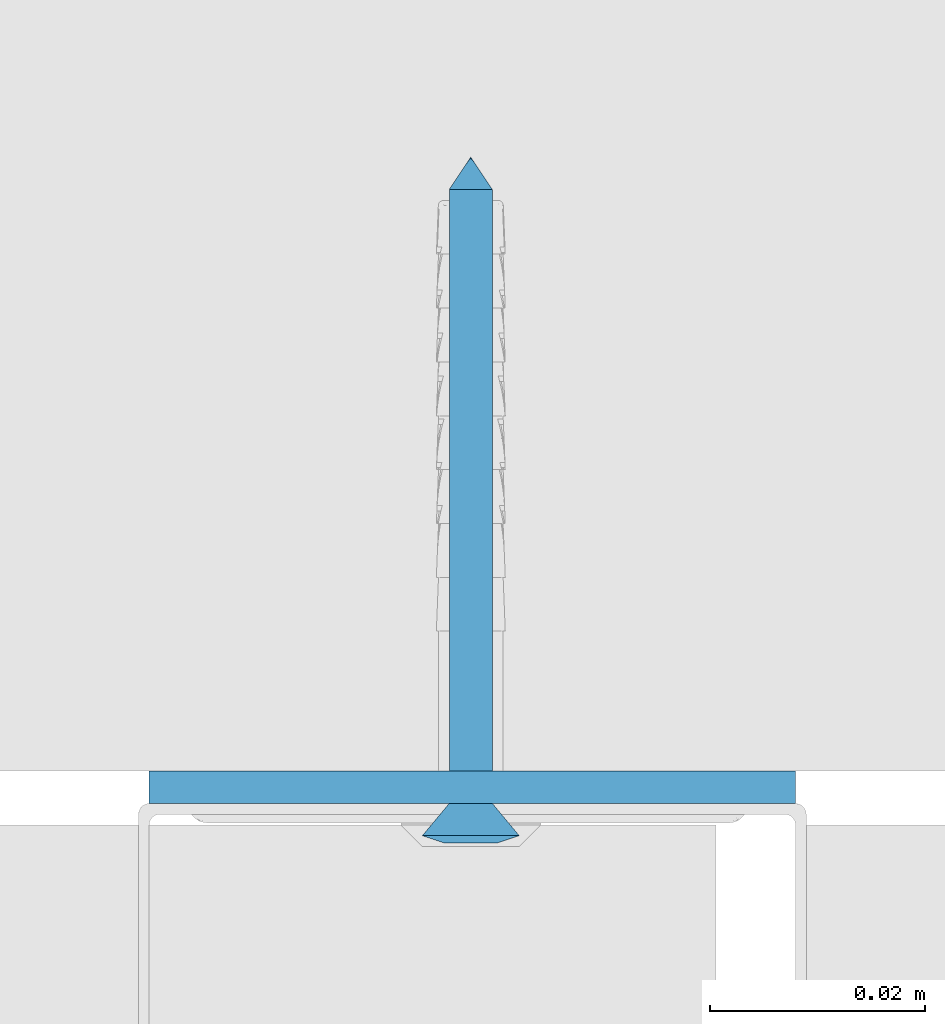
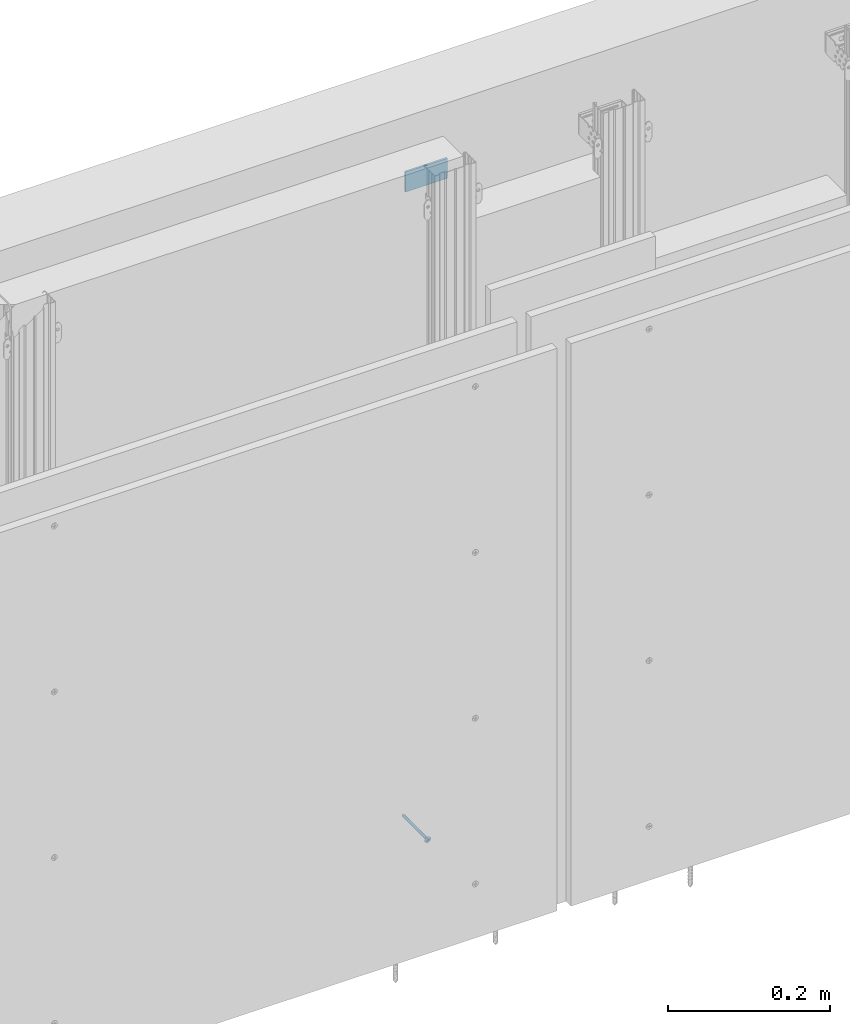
# One storey, part 16 of 48: 2 walls.
"""IFC2X3 building model written with IfcOpenShell, lengths in millimetres."""

import ifcopenshell
import ifcopenshell.guid

model = None  # the IFC model being written
_history = None  # IfcOwnerHistory: only IFC2X3 demands one
_inside = {}  # id of a spatial element -> (the spatial element, [elements in it])
_under = {}  # id of a project, library or spatial element -> (it, [spatial elements below it])
_declared = {}  # id of a project -> (the project, [libraries it declares])
_typed = {}  # id of a type object -> (the type object, [elements of that type])
_made_of = {}  # id of a material, layer set ... -> (it, [elements and type objects made of it])


def new_model(schema):
    """Start an empty IFC model of exactly this schema.

    Asked for "IFC4X3", IfcOpenShell would pick the latest addendum, in which some entities
    have other attributes; the version numbers below select the first issue.
    IFC2X3 requires an IfcOwnerHistory on every rooted entity: one is made here for all.
    """
    global model, _history
    if schema == "IFC4X3":
        model = ifcopenshell.file(schema_version=(4, 3, 0, 0))
    else:
        model = ifcopenshell.file(schema=schema)
    _inside.clear()
    _under.clear()
    _declared.clear()
    _typed.clear()
    _made_of.clear()
    _history = None
    if model.schema == "IFC2X3":
        org = make("IfcOrganization", Name="unknown")
        user = make(
            "IfcPersonAndOrganization",
            ThePerson=make("IfcPerson", FamilyName="unknown"),
            TheOrganization=org,
        )
        app = make(
            "IfcApplication",
            ApplicationDeveloper=org,
            Version="unknown",
            ApplicationFullName="unknown",
            ApplicationIdentifier="unknown",
        )
        _history = make(
            "IfcOwnerHistory",
            OwningUser=user,
            OwningApplication=app,
            ChangeAction="ADDED",
            CreationDate=0,
        )
    return model


def make(cls, **values):
    """One entity of the class cls with the attributes given. An attribute that is None is left unset."""
    return model.create_entity(
        cls, **{name: value for name, value in values.items() if value is not None}
    )


def entity(cls, *values):
    """Any entity or typed value of the class cls, its attributes in the order of the schema. None: left unset."""
    e = model.create_entity(cls)
    for i, value in enumerate(values):
        if value is not None:
            e[i] = value
    return e


def rooted(cls, **values):
    """An entity with a GlobalId (a new one), such as an element, a storey or a relation."""
    return make(cls, GlobalId=ifcopenshell.guid.new(), OwnerHistory=_history, **values)


def si_unit(unit_type, name, prefix=None):
    """IfcSIUnit, for example si_unit("LENGTHUNIT", "METRE", prefix="MILLI")."""
    return make("IfcSIUnit", UnitType=unit_type, Prefix=prefix, Name=name)


def converted_unit(unit_type, name, factor, base, dimensions=None, offset=None):
    """IfcConversionBasedUnit, such as the inch: factor (a typed value) times the base unit."""
    return make(
        "IfcConversionBasedUnit"
        if offset is None
        else "IfcConversionBasedUnitWithOffset",
        ConversionOffset=offset,
        Dimensions=None
        if dimensions is None
        else entity("IfcDimensionalExponents", *dimensions),
        UnitType=unit_type,
        Name=name,
        ConversionFactor=make(
            "IfcMeasureWithUnit", ValueComponent=factor, UnitComponent=base
        ),
    )


def assignment(units):
    """IfcUnitAssignment: the units of a project."""
    return None if units is None else make("IfcUnitAssignment", Units=units)


def point(xyz):
    """IfcCartesianPoint."""
    return None if xyz is None else make("IfcCartesianPoint", Coordinates=xyz)


def direction(xyz):
    """IfcDirection."""
    return None if xyz is None else make("IfcDirection", DirectionRatios=xyz)


def frame(location, z_axis=None, x_axis=None):
    """IfcAxis2Placement3D, a coordinate frame: its origin and axes. An axis left out is left unset."""
    return make(
        "IfcAxis2Placement3D",
        Location=point(location),
        Axis=direction(z_axis),
        RefDirection=direction(x_axis),
    )


def origin():
    """The frame at (0, 0, 0) with its axes left unset."""
    return frame((0.0, 0.0, 0.0))


def origin_with_axes():
    """The frame at (0, 0, 0) with the z axis (0, 0, 1) and the x axis (1, 0, 0) written out."""
    return frame((0.0, 0.0, 0.0), z_axis=(0.0, 0.0, 1.0), x_axis=(1.0, 0.0, 0.0))


def place(relative_to, where):
    """IfcLocalPlacement: puts the frame where relative to a parent placement (None: the world)."""
    return make(
        "IfcLocalPlacement", PlacementRelTo=relative_to, RelativePlacement=where
    )


def context(
    kind, dimensions, precision=None, world=None, true_north=None, identifier=None
):
    """IfcGeometricRepresentationContext, for example the 3D "Model" context."""
    return make(
        "IfcGeometricRepresentationContext",
        ContextIdentifier=identifier,
        ContextType=kind,
        CoordinateSpaceDimension=dimensions,
        Precision=precision,
        WorldCoordinateSystem=world,
        TrueNorth=true_north,
    )


def project(units=None, contexts=None):
    """IfcProject with its units and contexts."""
    return rooted(
        "IfcProject",
        Name="project",
        RepresentationContexts=contexts,
        UnitsInContext=assignment(units),
    )


def spatial(cls, under=None, at=None, **own):
    """A site, building, storey or space (cls), placed at a placement, below another one or the project."""
    s = rooted(cls, ObjectPlacement=at, **own)
    if under is not None:
        _under.setdefault(under.id(), (under, []))[1].append(s)
    return s


def faces_of(points, faces, orient=None, outer=None):
    """IfcFace entities. A face is a list of loops; a loop is a list of indices into points, from 0.

    orient and outer hold one flag for each loop. By default every Orientation is true, the
    first loop of a face is its IfcFaceOuterBound and the others are IfcFaceBound.
    """
    made = []
    for i, loops in enumerate(faces):
        bounds = []
        for j, loop in enumerate(loops):
            is_outer = j == 0 if outer is None else outer[i][j]
            bounds.append(
                make(
                    "IfcFaceOuterBound" if is_outer else "IfcFaceBound",
                    Bound=make("IfcPolyLoop", Polygon=[points[k] for k in loop]),
                    Orientation=True if orient is None else orient[i][j],
                )
            )
        made.append(make("IfcFace", Bounds=bounds))
    return made


def faceted_brep(points, faces, orient=None, outer=None, voids=None):
    """IfcFacetedBrep: a solid bounded by flat faces; with voids (closed shells), ...WithVoids."""
    shared = [point(p) for p in points]
    hull = make("IfcClosedShell", CfsFaces=faces_of(shared, faces, orient, outer))
    if voids is None:
        return make("IfcFacetedBrep", Outer=hull)
    return make(
        "IfcFacetedBrepWithVoids",
        Outer=hull,
        Voids=[
            make(cls, CfsFaces=faces_of(shared, fs, o, b)) for cls, fs, o, b in voids
        ],
    )


def shape(context_of_items, identifier, shape_type, items):
    """IfcShapeRepresentation: the items that make up one representation, for example the "Body"."""
    return make(
        "IfcShapeRepresentation",
        ContextOfItems=context_of_items,
        RepresentationIdentifier=identifier,
        RepresentationType=shape_type,
        Items=items,
    )


def made_of(thing, what):
    """Note that an element or type object is made of a material, layer set ...; save() writes the relation."""
    if what is not None:
        _made_of.setdefault(what.id(), (what, []))[1].append(thing)
    return thing


def element(
    cls,
    number,
    at=None,
    inside=None,
    cuts=None,
    type_object=None,
    material=None,
    context=None,
    identifier="Body",
    shape_type=None,
    held_by="IfcProductDefinitionShape",
    body=None,
    shapes=None,
    **own,
):
    """One element of the class cls, such as IfcWall. Its Tag is "e" and its number.

    at: its placement. inside: the storey or other place that contains it. cuts: it is an
    opening in that element (IfcRelVoidsElement). A single representation is given by context,
    identifier, shape_type and body (its items); several are given by shapes. held_by: the class
    of the entity that holds the representations. save() writes the other relations.
    """
    e = rooted(cls, Tag="e%d" % number, ObjectPlacement=at, **own)
    if body is not None:
        shapes = [shape(context, identifier, shape_type, body)]
    if shapes is not None:
        e.Representation = make(held_by, Representations=shapes)
    if inside is not None:
        _inside.setdefault(inside.id(), (inside, []))[1].append(e)
    if cuts is not None:
        rooted(
            "IfcRelVoidsElement", RelatingBuildingElement=cuts, RelatedOpeningElement=e
        )
    if type_object is not None:
        _typed.setdefault(type_object.id(), (type_object, []))[1].append(e)
    return made_of(e, material)


def aggregate(whole, parts):
    """IfcRelAggregates: a whole, such as a stair, and the parts it consists of."""
    return rooted("IfcRelAggregates", RelatingObject=whole, RelatedObjects=parts)


def save(model, path):
    """Write the relations noted so far, then the file.

    IfcRelAggregates (storeys below a building ...), IfcRelContainedInSpatialStructure (elements
    in a storey), IfcRelDefinesByType, IfcRelAssociatesMaterial and IfcRelDeclares: one each for
    every whole, place, type object, material and project.
    """
    for whole, parts in _under.values():
        aggregate(whole, parts)
    for where, things in _inside.values():
        rooted(
            "IfcRelContainedInSpatialStructure",
            RelatedElements=things,
            RelatingStructure=where,
        )
    for kind, things in _typed.values():
        rooted("IfcRelDefinesByType", RelatedObjects=things, RelatingType=kind)
    for what, things in _made_of.values():
        rooted("IfcRelAssociatesMaterial", RelatedObjects=things, RelatingMaterial=what)
    for by, libraries in _declared.values():
        rooted("IfcRelDeclares", RelatingContext=by, RelatedDefinitions=libraries)
    model.write(path)


model = new_model("IFC2X3")

# Units and contexts
model_context = context("Model", 3, precision=1e-05, world=origin(), true_north=direction((0.0, 1.0, 0.0)))
ifc_project = project(units=[si_unit("LENGTHUNIT", "METRE", prefix="MILLI"), si_unit("AREAUNIT", "SQUARE_METRE"), si_unit("VOLUMEUNIT", "CUBIC_METRE"), converted_unit("PLANEANGLEUNIT", "DEGREE", entity("IfcPlaneAngleMeasure", 0.01745), si_unit("PLANEANGLEUNIT", "RADIAN"), dimensions=[0, 0, 0, 0, 0, 0, 0]), si_unit("SOLIDANGLEUNIT", "STERADIAN"), si_unit("MASSUNIT", "GRAM"), si_unit("TIMEUNIT", "SECOND"), si_unit("THERMODYNAMICTEMPERATUREUNIT", "DEGREE_CELSIUS"), si_unit("LUMINOUSINTENSITYUNIT", "LUMEN")], contexts=[model_context])

# Site, building, storey
site_placement = place(None, origin_with_axes())
site = spatial("IfcSite", under=ifc_project, at=site_placement, Name="Default Site", CompositionType="ELEMENT")
building_placement = place(site_placement, origin_with_axes())
building = spatial("IfcBuilding", under=site, at=building_placement, Name="Default Building", CompositionType="ELEMENT")
storey_placement = place(building_placement, origin_with_axes())
storey = spatial("IfcBuildingStorey", under=building, at=storey_placement, Name="Default Building Storey", CompositionType="ELEMENT", Elevation=0.0)

# Walls
wall_1_placement = place(storey_placement, frame((2855.939502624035, 2019.140922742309, 1121.101645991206), z_axis=(0.0, 0.0, 1.0), x_axis=(1.0, 0.0, 0.0)))
element("IfcWall", 1, at=wall_1_placement, inside=storey, Name="Taśma uszczelniająca piankowa RIGIPS szer.30mm", context=model_context, shape_type="Brep", body=[
    faceted_brep([(59.99999999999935, 0.0, 4.511946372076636e-12), (0.0, 0.0, 0.0), (1.082867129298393e-12, -2.237925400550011e-11, -30.00000000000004), (60.00000000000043, -2.237925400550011e-11, -29.99999999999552), (0.0, 3.00000000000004, 0.0), (1.082867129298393e-12, 2.999999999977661, -30.00000000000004), (60.00000000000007, 3.00000000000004, 0.0), (60.00000000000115, 2.999999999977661, -30.00000000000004)], [[[0, 1, 2, 3]], [[1, 4, 5, 2]], [[4, 6, 7, 5]], [[6, 0, 3, 7]], [[7, 3, 2, 5]], [[0, 6, 4, 1]]]),
])
wall_2_placement = place(storey_placement, frame((6339.07869923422, 2015.690922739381, 1539.813288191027), z_axis=(-6.858158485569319e-13, -1.0, 7.642380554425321e-14), x_axis=(-1.647602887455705e-11, 7.642380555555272e-14, 1.0)))
element("IfcWall", 2, at=wall_2_placement, inside=storey, Name="Kołek rozporowy min. fi 6", context=model_context, shape_type="Brep", body=[
    faceted_brep([(-1438.31414949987, 3453.283223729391, -0.4642567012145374), (-1435.814149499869, 3453.283223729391, -3.464256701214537), (-1435.78952618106, 3452.97035479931, -3.464256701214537), (-1438.258747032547, 3452.57926863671, -0.4642567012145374), (-1435.71626253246, 3452.665189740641, -3.464256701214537), (-1438.093903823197, 3451.892647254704, -0.4642567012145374), (-1435.596162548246, 3452.375242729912, -3.464256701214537), (-1437.823678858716, 3451.240266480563, -0.4642567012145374), (-1435.432183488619, 3452.107653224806, -3.464256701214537), (-1437.454725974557, 3450.638190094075, -0.4642567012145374), (-1435.228363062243, 3451.869010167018, -3.464256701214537), (-1436.996130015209, 3450.101243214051, -0.4642567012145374), (-1434.989720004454, 3451.665189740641, -3.464256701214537), (-1436.459183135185, 3449.642647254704, -0.4642567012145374), (-1434.722130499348, 3451.501210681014, -3.464256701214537), (-1435.857106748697, 3449.273694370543, -0.4642567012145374), (-1434.432183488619, 3451.381110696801, -3.464256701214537), (-1435.204725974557, 3449.003469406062, -0.4642567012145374), (-1434.12701842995, 3451.307847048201, -3.464256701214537), (-1434.51810459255, 3448.838626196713, -0.4642567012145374), (-1433.814149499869, 3451.283223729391, -3.464256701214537), (-1433.814149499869, 3448.783223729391, -0.4642567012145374), (-1433.501280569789, 3451.307847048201, -3.464256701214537), (-1433.110194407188, 3448.838626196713, -0.4642567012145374), (-1433.19611551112, 3451.381110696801, -3.464256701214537), (-1432.423573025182, 3449.003469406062, -0.4642567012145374), (-1432.906168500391, 3451.501210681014, -3.464256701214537), (-1431.771192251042, 3449.273694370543, -0.4642567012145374), (-1432.638578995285, 3451.665189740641, -3.464256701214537), (-1431.169115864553, 3449.642647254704, -0.4642567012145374), (-1432.399935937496, 3451.869010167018, -3.464256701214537), (-1430.63216898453, 3450.101243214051, -0.4642567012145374), (-1432.196115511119, 3452.107653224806, -3.464256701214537), (-1430.173573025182, 3450.638190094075, -0.4642567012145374), (-1432.032136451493, 3452.375242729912, -3.464256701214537), (-1429.804620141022, 3451.240266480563, -0.4642567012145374), (-1431.912036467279, 3452.665189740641, -3.464256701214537), (-1429.534395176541, 3451.892647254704, -0.4642567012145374), (-1431.838772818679, 3453.596092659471, -3.464256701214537), (-1429.369551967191, 3453.987178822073, -0.4642567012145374), (-1429.314149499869, 3453.283223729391, -0.4642567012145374), (-1431.81414949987, 3453.283223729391, -3.464256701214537), (-1429.369551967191, 3452.57926863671, -0.4642567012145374), (-1431.838772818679, 3452.97035479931, -3.464256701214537), (-1431.912036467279, 3453.901257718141, -3.464256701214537), (-1429.534395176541, 3454.673800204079, -0.4642567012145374), (-1432.032136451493, 3454.19120472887, -3.464256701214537), (-1429.804620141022, 3455.326180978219, -0.4642567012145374), (-1432.196115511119, 3454.458794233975, -3.464256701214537), (-1430.173573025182, 3455.928257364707, -0.4642567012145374), (-1432.399935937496, 3454.697437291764, -3.464256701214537), (-1430.63216898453, 3456.465204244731, -0.4642567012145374), (-1432.638578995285, 3454.901257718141, -3.464256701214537), (-1431.169115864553, 3456.923800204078, -0.4642567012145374), (-1432.906168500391, 3455.065236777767, -3.464256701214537), (-1431.771192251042, 3457.292753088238, -0.4642567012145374), (-1433.19611551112, 3455.185336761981, -3.464256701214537), (-1432.423573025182, 3457.562978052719, -0.4642567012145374), (-1433.501280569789, 3455.258600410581, -3.464256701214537), (-1433.110194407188, 3457.727821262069, -0.4642567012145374), (-1433.814149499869, 3455.283223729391, -3.464256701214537), (-1433.814149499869, 3457.783223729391, -0.4642567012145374), (-1434.34306778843, 3457.752031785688, -0.4642567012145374), (-1434.12701842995, 3455.258600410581, -3.464256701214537), (-1434.432183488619, 3455.185336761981, -3.464256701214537), (-1434.864653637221, 3457.658888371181, -0.4642567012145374), (-1435.371676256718, 3457.505084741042, -0.4642567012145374), (-1434.722130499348, 3455.065236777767, -3.464256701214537), (-1435.857106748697, 3457.292753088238, -0.4642567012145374), (-1434.989720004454, 3454.901257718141, -3.464256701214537), (-1435.228363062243, 3454.697437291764, -3.464256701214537), (-1436.314215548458, 3457.024836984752, -0.4642567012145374), (-1436.736665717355, 3456.705050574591, -0.4642567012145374), (-1437.11860079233, 3456.337827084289, -0.4642567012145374), (-1437.454725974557, 3455.928257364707, -0.4642567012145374), (-1435.432183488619, 3454.458794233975, -3.464256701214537), (-1435.596162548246, 3454.19120472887, -3.464256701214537), (-1437.823678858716, 3455.326180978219, -0.4642567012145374), (-1435.71626253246, 3453.901257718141, -3.464256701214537), (-1438.093903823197, 3454.673800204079, -0.4642567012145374), (-1435.78952618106, 3453.596092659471, -3.464256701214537), (-1438.258747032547, 3453.987178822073, -0.4642567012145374), (-1434.205235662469, 3455.752444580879, 0.2007375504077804), (-1433.814149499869, 3455.78322372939, 0.2007375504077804), (-1434.586691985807, 3455.660865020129, 0.2007375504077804), (-1434.949125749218, 3455.510740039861, 0.2007375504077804), (-1435.283612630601, 3455.305766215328, 0.2007375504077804), (-1435.581916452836, 3455.050990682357, 0.2007375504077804), (-1435.836691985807, 3454.752686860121, 0.2007375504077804), (-1436.04166581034, 3454.41819997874, 0.2007375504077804), (-1436.191790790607, 3454.055766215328, 0.2007375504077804), (-1436.283370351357, 3453.674309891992, 0.2007375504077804), (-1436.314149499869, 3453.283223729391, 0.2007375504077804), (-1436.283370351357, 3452.892137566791, 0.2007375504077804), (-1436.191790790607, 3452.510681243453, 0.2007375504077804), (-1436.04166581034, 3452.148247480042, 0.2007375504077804), (-1435.836691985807, 3451.81376059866, 0.200737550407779), (-1435.581916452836, 3451.515456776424, 0.2007375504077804), (-1435.283612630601, 3451.260681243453, 0.2007375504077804), (-1434.949125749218, 3451.05570741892, 0.2007375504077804), (-1434.586691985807, 3450.905582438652, 0.2007375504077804), (-1433.423063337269, 3450.814002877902, 0.2007375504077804), (-1433.814149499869, 3450.783223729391, 0.2007375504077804), (-1434.205235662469, 3450.814002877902, 0.2007375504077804), (-1433.041607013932, 3450.905582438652, 0.2007375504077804), (-1432.67917325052, 3451.05570741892, 0.2007375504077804), (-1432.344686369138, 3451.260681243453, 0.2007375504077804), (-1432.046382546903, 3451.515456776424, 0.2007375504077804), (-1431.791607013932, 3451.81376059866, 0.2007375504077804), (-1431.586633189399, 3452.148247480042, 0.2007375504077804), (-1431.436508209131, 3452.510681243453, 0.2007375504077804), (-1431.344928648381, 3452.892137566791, 0.2007375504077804), (-1431.314149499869, 3453.283223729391, 0.2007375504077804), (-1431.344928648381, 3453.674309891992, 0.2007375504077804), (-1431.436508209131, 3454.055766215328, 0.2007375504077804), (-1431.586633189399, 3454.41819997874, 0.2007375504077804), (-1431.791607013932, 3454.752686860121, 0.2007375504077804), (-1432.046382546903, 3455.050990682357, 0.2007375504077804), (-1432.344686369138, 3455.305766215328, 0.2007375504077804), (-1432.67917325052, 3455.510740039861, 0.2007375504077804), (-1433.041607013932, 3455.660865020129, 0.2007375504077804), (-1433.423063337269, 3455.752444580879, 0.2007375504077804), (-1433.814149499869, 3453.283223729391, -63.46425670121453), (-1435.789526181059, 3452.97035479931, -60.46425670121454), (-1435.814149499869, 3453.283223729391, -60.46425670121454), (-1435.716262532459, 3452.665189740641, -60.46425670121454), (-1435.596162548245, 3452.375242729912, -60.46425670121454), (-1435.432183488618, 3452.107653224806, -60.46425670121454), (-1435.228363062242, 3451.869010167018, -60.46425670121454), (-1434.989720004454, 3451.665189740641, -60.46425670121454), (-1434.722130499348, 3451.501210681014, -60.46425670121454), (-1434.432183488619, 3451.381110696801, -60.46425670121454), (-1434.127018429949, 3451.307847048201, -60.46425670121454), (-1433.814149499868, 3451.283223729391, -60.46425670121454), (-1433.501280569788, 3451.307847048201, -60.46425670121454), (-1433.196115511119, 3451.381110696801, -60.46425670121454), (-1432.90616850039, 3451.501210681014, -60.46425670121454), (-1432.638578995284, 3451.665189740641, -60.46425670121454), (-1432.399935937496, 3451.869010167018, -60.46425670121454), (-1432.196115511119, 3452.107653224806, -60.46425670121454), (-1432.032136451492, 3452.375242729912, -60.46425670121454), (-1431.912036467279, 3452.665189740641, -60.46425670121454), (-1431.838772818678, 3452.97035479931, -60.46425670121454), (-1431.814149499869, 3453.283223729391, -60.46425670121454), (-1431.838772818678, 3453.596092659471, -60.46425670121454), (-1431.912036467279, 3453.901257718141, -60.46425670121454), (-1432.032136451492, 3454.19120472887, -60.46425670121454), (-1432.196115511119, 3454.458794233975, -60.46425670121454), (-1432.399935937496, 3454.697437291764, -60.46425670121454), (-1432.638578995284, 3454.901257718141, -60.46425670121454), (-1432.90616850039, 3455.065236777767, -60.46425670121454), (-1433.196115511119, 3455.185336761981, -60.46425670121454), (-1433.501280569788, 3455.258600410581, -60.46425670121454), (-1433.814149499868, 3455.283223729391, -60.46425670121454), (-1434.127018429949, 3455.258600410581, -60.46425670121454), (-1434.432183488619, 3455.185336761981, -60.46425670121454), (-1434.722130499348, 3455.065236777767, -60.46425670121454), (-1434.989720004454, 3454.901257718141, -60.46425670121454), (-1435.228363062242, 3454.697437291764, -60.46425670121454), (-1435.432183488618, 3454.458794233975, -60.46425670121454), (-1435.596162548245, 3454.19120472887, -60.46425670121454), (-1435.716262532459, 3453.901257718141, -60.46425670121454), (-1435.789526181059, 3453.596092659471, -60.46425670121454), (-1435.814149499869, 3453.783223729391, 0.04999999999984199), (-1436.04166581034, 3454.41819997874, 0.04999999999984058), (-1436.191790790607, 3454.055766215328, 0.04999999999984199), (-1435.814149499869, 3452.783223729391, 0.04999999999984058), (-1434.314149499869, 3453.783223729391, 0.04999999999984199), (-1434.314149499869, 3455.28322372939, 0.04999999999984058), (-1433.314149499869, 3455.28322372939, 0.04999999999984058), (-1433.314149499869, 3453.783223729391, 0.04999999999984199), (-1431.814149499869, 3453.783223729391, 0.04999999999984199), (-1431.814149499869, 3452.783223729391, 0.04999999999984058), (-1433.314149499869, 3452.783223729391, 0.04999999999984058), (-1433.314149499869, 3451.283223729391, 0.04999999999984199), (-1434.314149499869, 3451.283223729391, 0.04999999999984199), (-1434.314149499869, 3452.783223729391, 0.04999999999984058), (-1436.283370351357, 3453.674309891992, 0.04999999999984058), (-1436.314149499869, 3453.283223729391, 0.04999999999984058), (-1436.283370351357, 3452.892137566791, 0.04999999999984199), (-1436.191790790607, 3452.510681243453, 0.04999999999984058), (-1436.04166581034, 3452.148247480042, 0.04999999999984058), (-1435.836691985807, 3451.81376059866, 0.04999999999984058), (-1435.581916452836, 3451.515456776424, 0.04999999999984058), (-1435.283612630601, 3451.260681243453, 0.04999999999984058), (-1434.949125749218, 3451.05570741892, 0.04999999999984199), (-1434.586691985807, 3450.905582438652, 0.04999999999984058), (-1434.205235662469, 3450.814002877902, 0.04999999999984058), (-1433.814149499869, 3450.783223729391, 0.04999999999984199), (-1433.423063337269, 3450.814002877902, 0.04999999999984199), (-1433.041607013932, 3450.905582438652, 0.04999999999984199), (-1432.67917325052, 3451.05570741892, 0.04999999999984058), (-1432.344686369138, 3451.260681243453, 0.04999999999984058), (-1432.046382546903, 3451.515456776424, 0.04999999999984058), (-1431.791607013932, 3451.81376059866, 0.04999999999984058), (-1431.586633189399, 3452.148247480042, 0.04999999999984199), (-1431.436508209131, 3452.510681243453, 0.04999999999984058), (-1431.344928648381, 3452.892137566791, 0.04999999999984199), (-1431.314149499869, 3453.283223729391, 0.04999999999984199), (-1431.344928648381, 3453.674309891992, 0.04999999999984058), (-1431.436508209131, 3454.055766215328, 0.04999999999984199), (-1431.586633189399, 3454.41819997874, 0.04999999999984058), (-1431.791607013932, 3454.752686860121, 0.04999999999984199), (-1432.046382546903, 3455.050990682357, 0.04999999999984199), (-1432.344686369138, 3455.305766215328, 0.04999999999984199), (-1432.67917325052, 3455.510740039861, 0.04999999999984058), (-1433.041607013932, 3455.660865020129, 0.04999999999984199), (-1433.423063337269, 3455.752444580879, 0.04999999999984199), (-1433.814149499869, 3455.78322372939, 0.04999999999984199), (-1434.205235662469, 3455.752444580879, 0.04999999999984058), (-1434.586691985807, 3455.660865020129, 0.04999999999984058), (-1434.949125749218, 3455.510740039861, 0.04999999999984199), (-1435.283612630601, 3455.305766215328, 0.04999999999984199), (-1435.581916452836, 3455.050990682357, 0.04999999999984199), (-1435.836691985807, 3454.752686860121, 0.04999999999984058), (-1434.314149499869, 3452.783223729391, -1.79926244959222), (-1434.314149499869, 3451.283223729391, -1.799262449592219), (-1433.314149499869, 3451.283223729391, -1.799262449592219), (-1433.314149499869, 3452.783223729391, -1.79926244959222), (-1431.81414949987, 3452.783223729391, -1.79926244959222), (-1431.81414949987, 3453.783223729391, -1.799262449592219), (-1433.314149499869, 3453.783223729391, -1.799262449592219), (-1433.314149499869, 3455.28322372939, -1.79926244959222), (-1434.314149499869, 3455.28322372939, -1.79926244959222), (-1434.314149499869, 3453.783223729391, -1.799262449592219), (-1435.814149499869, 3453.783223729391, -1.799262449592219), (-1435.814149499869, 3452.783223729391, -1.79926244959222)], [[[0, 1, 2, 3]], [[4, 5, 3, 2]], [[6, 7, 5, 4]], [[7, 6, 8, 9]], [[10, 11, 9, 8]], [[11, 10, 12, 13]], [[14, 15, 13, 12]], [[16, 17, 15, 14]], [[17, 16, 18, 19]], [[20, 21, 19, 18]], [[21, 20, 22, 23]], [[24, 25, 23, 22]], [[26, 27, 25, 24]], [[27, 26, 28, 29]], [[30, 31, 29, 28]], [[31, 30, 32, 33]], [[34, 35, 33, 32]], [[36, 37, 35, 34]], [[38, 39, 40, 41]], [[41, 40, 42, 43]], [[37, 36, 43, 42]], [[44, 45, 39, 38]], [[46, 47, 45, 44]], [[47, 46, 48, 49]], [[50, 51, 49, 48]], [[51, 50, 52, 53]], [[54, 55, 53, 52]], [[56, 57, 55, 54]], [[57, 56, 58, 59]], [[60, 61, 59, 58]], [[62, 61, 63]], [[61, 60, 63]], [[63, 64, 62]], [[64, 65, 62]], [[66, 65, 64]], [[64, 67, 66]], [[67, 68, 66]], [[69, 70, 71]], [[70, 72, 71]], [[71, 68, 69]], [[68, 67, 69]], [[70, 73, 72]], [[74, 73, 75]], [[73, 70, 75]], [[76, 77, 74, 75]], [[78, 79, 77, 76]], [[79, 78, 80, 81]], [[1, 0, 81, 80]], [[82, 83, 62]], [[83, 61, 62]], [[62, 65, 82]], [[65, 84, 82]], [[66, 68, 84]], [[68, 85, 84]], [[84, 65, 66]], [[86, 85, 71]], [[85, 68, 71]], [[72, 73, 87]], [[87, 86, 72]], [[86, 71, 72]], [[88, 87, 74]], [[87, 73, 74]], [[77, 89, 88, 74]], [[79, 90, 89, 77]], [[90, 79, 81, 91]], [[0, 92, 91, 81]], [[92, 0, 3, 93]], [[5, 94, 93, 3]], [[7, 95, 94, 5]], [[95, 7, 9, 96]], [[11, 97, 96, 9]], [[97, 11, 13, 98]], [[15, 99, 98, 13]], [[17, 100, 99, 15]], [[23, 101, 102, 21]], [[21, 102, 103, 19]], [[100, 17, 19, 103]], [[25, 104, 101, 23]], [[27, 105, 104, 25]], [[105, 27, 29, 106]], [[31, 107, 106, 29]], [[107, 31, 33, 108]], [[35, 109, 108, 33]], [[37, 110, 109, 35]], [[110, 37, 42, 111]], [[40, 112, 111, 42]], [[112, 40, 39, 113]], [[45, 114, 113, 39]], [[47, 115, 114, 45]], [[115, 47, 49, 116]], [[51, 117, 116, 49]], [[117, 51, 53, 118]], [[55, 119, 118, 53]], [[57, 120, 119, 55]], [[120, 57, 59, 121]], [[61, 83, 121, 59]], [[122, 123, 124]], [[122, 125, 123]], [[122, 126, 125]], [[127, 126, 122]], [[122, 128, 127]], [[129, 128, 122]], [[122, 130, 129]], [[122, 131, 130]], [[132, 131, 122]], [[122, 133, 132]], [[134, 133, 122]], [[122, 135, 134]], [[122, 136, 135]], [[137, 136, 122]], [[122, 138, 137]], [[139, 138, 122]], [[122, 140, 139]], [[122, 141, 140]], [[142, 141, 122]], [[122, 143, 142]], [[144, 143, 122]], [[122, 145, 144]], [[122, 146, 145]], [[147, 146, 122]], [[122, 148, 147]], [[149, 148, 122]], [[122, 150, 149]], [[122, 151, 150]], [[152, 151, 122]], [[122, 153, 152]], [[154, 153, 122]], [[122, 155, 154]], [[122, 156, 155]], [[157, 156, 122]], [[122, 158, 157]], [[159, 158, 122]], [[122, 160, 159]], [[122, 161, 160]], [[162, 161, 122]], [[124, 162, 122]], [[1, 124, 123, 2]], [[125, 4, 2, 123]], [[126, 6, 4, 125]], [[6, 126, 127, 8]], [[128, 10, 8, 127]], [[10, 128, 129, 12]], [[130, 14, 12, 129]], [[131, 16, 14, 130]], [[16, 131, 132, 18]], [[133, 20, 18, 132]], [[20, 133, 134, 22]], [[135, 24, 22, 134]], [[136, 26, 24, 135]], [[26, 136, 137, 28]], [[138, 30, 28, 137]], [[30, 138, 139, 32]], [[140, 34, 32, 139]], [[141, 36, 34, 140]], [[144, 38, 41, 143]], [[143, 41, 43, 142]], [[36, 141, 142, 43]], [[145, 44, 38, 144]], [[146, 46, 44, 145]], [[46, 146, 147, 48]], [[148, 50, 48, 147]], [[50, 148, 149, 52]], [[150, 54, 52, 149]], [[151, 56, 54, 150]], [[56, 151, 152, 58]], [[153, 60, 58, 152]], [[60, 153, 154, 63]], [[155, 64, 63, 154]], [[156, 67, 64, 155]], [[67, 156, 157, 69]], [[158, 70, 69, 157]], [[70, 158, 159, 75]], [[160, 76, 75, 159]], [[161, 78, 76, 160]], [[78, 161, 162, 80]], [[124, 1, 80, 162]], [[163, 164, 165, 166]], [[163, 167, 168, 169, 170, 171, 172, 173, 174, 175, 176, 166, 165, 177, 178, 179, 180, 181, 182, 183, 184, 185, 186, 187, 188, 189, 190, 191, 192, 193, 194, 195, 196, 197, 198, 199, 200, 201, 202, 203, 204, 205, 206, 207, 208, 209, 210, 211, 212, 213, 214, 164]], [[199, 198, 112, 113]], [[113, 114, 200, 199]], [[114, 115, 201, 200]], [[202, 201, 115, 116]], [[116, 117, 203, 202]], [[204, 203, 117, 118]], [[118, 119, 205, 204]], [[119, 120, 206, 205]], [[207, 206, 120, 121]], [[121, 83, 208, 207]], [[209, 208, 83, 82]], [[82, 84, 210, 209]], [[84, 85, 211, 210]], [[212, 211, 85, 86]], [[86, 87, 213, 212]], [[214, 213, 87, 88]], [[88, 89, 164, 214]], [[89, 90, 165, 164]], [[92, 93, 179, 178]], [[91, 92, 178, 177]], [[177, 165, 90, 91]], [[93, 94, 180, 179]], [[94, 95, 181, 180]], [[182, 181, 95, 96]], [[96, 97, 183, 182]], [[184, 183, 97, 98]], [[98, 99, 185, 184]], [[99, 100, 186, 185]], [[187, 186, 100, 103]], [[103, 102, 188, 187]], [[189, 188, 102, 101]], [[101, 104, 190, 189]], [[104, 105, 191, 190]], [[192, 191, 105, 106]], [[106, 107, 193, 192]], [[194, 193, 107, 108]], [[108, 109, 195, 194]], [[109, 110, 196, 195]], [[197, 196, 110, 111]], [[111, 112, 198, 197]], [[215, 216, 217, 218, 219, 220, 221, 222, 223, 224, 225, 226]], [[216, 175, 174, 217]], [[215, 176, 175, 216]], [[226, 166, 176, 215]], [[225, 163, 166, 226]], [[224, 167, 163, 225]], [[223, 168, 167, 224]], [[222, 169, 168, 223]], [[221, 170, 169, 222]], [[220, 171, 170, 221]], [[219, 172, 171, 220]], [[218, 173, 172, 219]], [[217, 174, 173, 218]]]),
])

save(model, "model.ifc")
